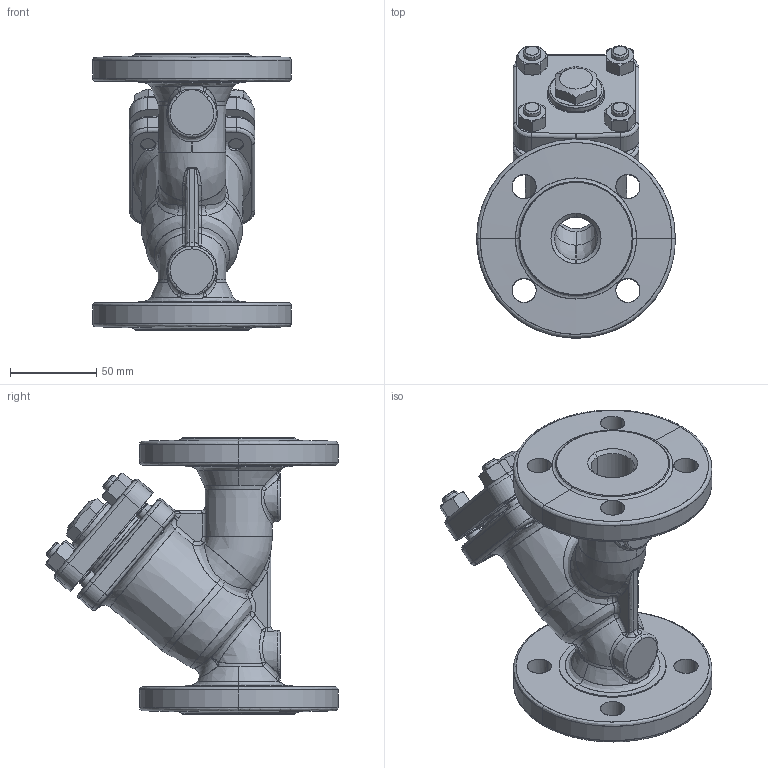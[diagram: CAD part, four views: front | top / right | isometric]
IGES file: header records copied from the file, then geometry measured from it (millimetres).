
Start section: SolidWorks IGES file using analytic representation for surfaces
Global section: file name: D:\Archiwum SolidWorks\staliwo\821\PN40\CAD\821_DN25 PN40.IGS; native system: SolidWorks 2010; preprocessor: SolidWorks 2010; author: wtarnaws; date: 100113.074226; units: millimetre
Bounding box: 115 x 169.19 x 160 mm (x, y, z)
Surface area: 135951.8 mm2 (no closed solid volume)
Topology: 0 solids, 0 shells, 604 faces, 8652 edges, 8648 vertices
Faces by surface type: revolution 323, bspline 281
